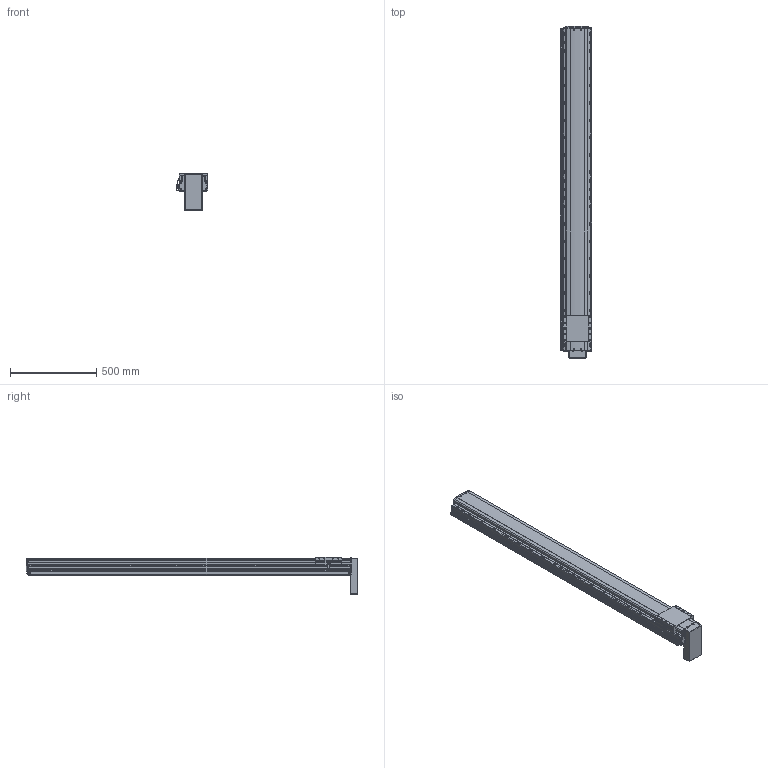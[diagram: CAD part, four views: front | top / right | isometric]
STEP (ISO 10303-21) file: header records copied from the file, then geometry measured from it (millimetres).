
FILE_DESCRIPTION(('STEP AP214'),'1');
FILE_NAME('Z:/Web/3D/PSA165/STP/PSA165-1600 (3D)/PSA165ㅁㅁ-1600PB+3SL.stp','2014-06-24T11:17:02',(' '),(' '),'Spatial InterOp 3D',' ',' ');
FILE_SCHEMA(('automotive_design'));
Length unit declared in the file: millimetre
Products named in the file (47): 스크루 : Round - M4.0 x 12.0; RRCV-PA160; BASE; 스크루 : Round - M4.0 x 10.0; RN15; Screw 20; SLIDE; FRCV; MTPL CV- PB; 스크루 : Round - M3.0 x 6.0; 1; 2; M3.0 x 6.0; SRL-16x17-360L; SGD-SAN150; EE-SX674; SBK-SX674-352; BHCS M4.0 x 10.0
Bounding box: 181 x 1920.8 x 215.96 mm (x, y, z)
Volume: 26745194.5 mm3; surface area: 1782139.6 mm2
Topology: 47 solids, 47 shells, 2896 faces, 7744 edges, 4952 vertices
Faces by surface type: plane 1573, cylinder 932, cone 278, sphere 72, bspline 25, torus 16
Entity records: 117411 total; most frequent: CARTESIAN_POINT 20365, DIRECTION 15507, ORIENTED_EDGE 15116, EDGE_CURVE 7558, AXIS2_PLACEMENT_3D 5314, VERTEX_POINT 4952, LINE 4879, VECTOR 4879
